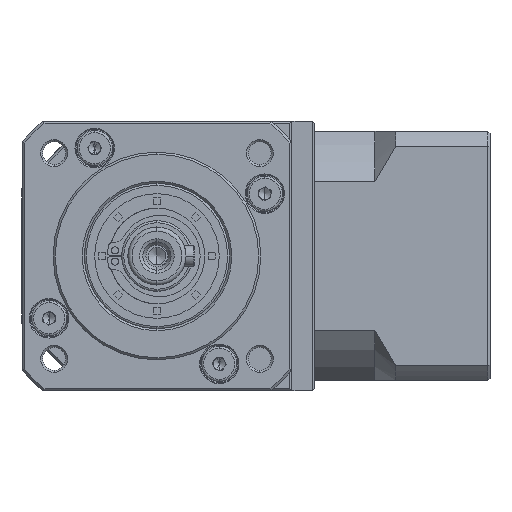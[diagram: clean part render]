
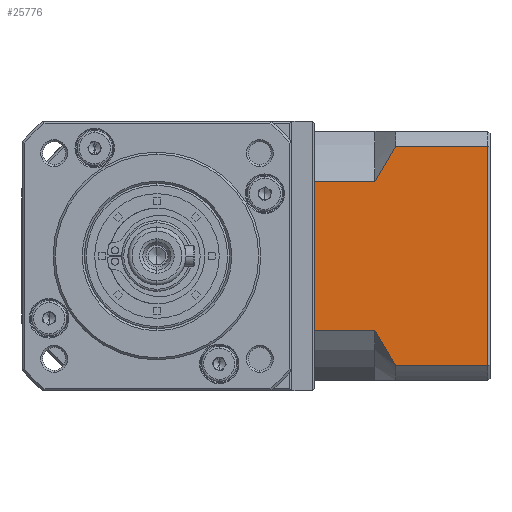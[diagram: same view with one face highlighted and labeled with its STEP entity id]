
A CAD part, left-side view. The second image highlights one B-rep face of the part: STEP entity #25776.
In plain terms, the highlighted planar face has unit normal (-1, 0, 0).
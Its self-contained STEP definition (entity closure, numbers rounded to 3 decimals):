
#886 = VERTEX_POINT ( 'NONE', #100569 ) ;
#1489 = B_SPLINE_CURVE_WITH_KNOTS ( 'NONE', 3,
 ( #36244, #62282, #87854, #12005, #100720, #24716 ),
 .UNSPECIFIED., .F., .F.,
 ( 4, 2, 4 ),
 ( 0.052, 0.057, 0.062 ),
 .UNSPECIFIED. ) ;
#1565 = CARTESIAN_POINT ( 'NONE',  ( 16.666, -16.042, 86.242 ) ) ;
#2816 = CARTESIAN_POINT ( 'NONE',  ( 16.666, -11.793, 93.216 ) ) ;
#5356 = LINE ( 'NONE', #144395, #136288 ) ;
#6912 = ORIENTED_EDGE ( 'NONE', *, *, #144850, .F. ) ;
#10768 = VECTOR ( 'NONE', #93828, 1000. ) ;
#12005 = CARTESIAN_POINT ( 'NONE',  ( 16.666, -12.594, 133.611 ) ) ;
#12639 = B_SPLINE_CURVE_WITH_KNOTS ( 'NONE', 3,
 ( #154746, #2816, #117055, #40947, #129784, #53651 ),
 .UNSPECIFIED., .F., .F.,
 ( 4, 2, 4 ),
 ( 0.1, 0.104, 0.109 ),
 .UNSPECIFIED. ) ;
#13558 = EDGE_LOOP ( 'NONE', ( #136567, #71172, #34356, #155069, #81053, #145869, #6912, #121154 ) ) ;
#14433 = VECTOR ( 'NONE', #129024, 1000. ) ;
#15318 = CARTESIAN_POINT ( 'NONE',  ( 16.666, -11.042, 94.672 ) ) ;
#16006 = EDGE_CURVE ( 'NONE', #55504, #27677, #107994, .T. ) ;
#16425 = CARTESIAN_POINT ( 'NONE',  ( 16.666, 3.458, 82.7 ) ) ;
#21311 = CARTESIAN_POINT ( 'NONE',  ( 16.666, -38.742, 82.7 ) ) ;
#24716 = CARTESIAN_POINT ( 'NONE',  ( 16.666, -11.042, 130.728 ) ) ;
#25776 = ADVANCED_FACE ( 'NONE', ( #107659 ), #135014, .F. ) ;
#26331 = EDGE_CURVE ( 'NONE', #55504, #97976, #93411, .T. ) ;
#27677 = VERTEX_POINT ( 'NONE', #149766 ) ;
#29266 = VERTEX_POINT ( 'NONE', #99590 ) ;
#33942 = DIRECTION ( 'NONE',  ( 0., 1., 0. ) ) ;
#34356 = ORIENTED_EDGE ( 'NONE', *, *, #37686, .F. ) ;
#36244 = CARTESIAN_POINT ( 'NONE',  ( 16.666, -16.042, 139.158 ) ) ;
#37686 = EDGE_CURVE ( 'NONE', #886, #27677, #149858, .T. ) ;
#40947 = CARTESIAN_POINT ( 'NONE',  ( 16.666, -14.267, 88.985 ) ) ;
#41807 = DIRECTION ( 'NONE',  ( 0., 0., -1. ) ) ;
#43795 = DIRECTION ( 'NONE',  ( 0., 1., 0. ) ) ;
#52453 = VECTOR ( 'NONE', #134698, 1000. ) ;
#53195 = EDGE_CURVE ( 'NONE', #886, #29266, #1489, .T. ) ;
#53651 = CARTESIAN_POINT ( 'NONE',  ( 16.666, -16.042, 86.242 ) ) ;
#55484 = DIRECTION ( 'NONE',  ( 0., -1., 0. ) ) ;
#55504 = VERTEX_POINT ( 'NONE', #101348 ) ;
#55624 = VECTOR ( 'NONE', #43795, 1000. ) ;
#57823 = VERTEX_POINT ( 'NONE', #142489 ) ;
#60379 = VECTOR ( 'NONE', #41807, 1000. ) ;
#62282 = CARTESIAN_POINT ( 'NONE',  ( 16.666, -15.143, 137.798 ) ) ;
#71172 = ORIENTED_EDGE ( 'NONE', *, *, #16006, .T. ) ;
#71846 = CARTESIAN_POINT ( 'NONE',  ( 16.666, -11.042, 139.158 ) ) ;
#77326 = EDGE_CURVE ( 'NONE', #109980, #29266, #5356, .T. ) ;
#78974 = CARTESIAN_POINT ( 'NONE',  ( 16.666, 3.458, 130.728 ) ) ;
#81053 = ORIENTED_EDGE ( 'NONE', *, *, #77326, .F. ) ;
#86022 = EDGE_CURVE ( 'NONE', #57823, #97976, #12639, .T. ) ;
#87854 = CARTESIAN_POINT ( 'NONE',  ( 16.666, -14.27, 136.419 ) ) ;
#92968 = AXIS2_PLACEMENT_3D ( 'NONE', #21311, #110062, #33942 ) ;
#93411 = LINE ( 'NONE', #119901, #55624 ) ;
#93828 = DIRECTION ( 'NONE',  ( 0., 0., 1. ) ) ;
#97976 = VERTEX_POINT ( 'NONE', #1565 ) ;
#99590 = CARTESIAN_POINT ( 'NONE',  ( 16.666, -11.042, 130.728 ) ) ;
#100569 = CARTESIAN_POINT ( 'NONE',  ( 16.666, -16.042, 139.158 ) ) ;
#100720 = CARTESIAN_POINT ( 'NONE',  ( 16.666, -11.79, 132.18 ) ) ;
#101348 = CARTESIAN_POINT ( 'NONE',  ( 16.666, -38.242, 86.242 ) ) ;
#107659 = FACE_OUTER_BOUND ( 'NONE', #13558, .T. ) ;
#107710 = LINE ( 'NONE', #15318, #14433 ) ;
#107994 = LINE ( 'NONE', #132719, #10768 ) ;
#109980 = VERTEX_POINT ( 'NONE', #78974 ) ;
#110062 = DIRECTION ( 'NONE',  ( 1., 0., 0. ) ) ;
#113542 = VERTEX_POINT ( 'NONE', #117725 ) ;
#117055 = CARTESIAN_POINT ( 'NONE',  ( 16.666, -12.593, 91.79 ) ) ;
#117725 = CARTESIAN_POINT ( 'NONE',  ( 16.666, 3.458, 94.672 ) ) ;
#119901 = CARTESIAN_POINT ( 'NONE',  ( 16.666, -11.042, 86.242 ) ) ;
#121154 = ORIENTED_EDGE ( 'NONE', *, *, #86022, .T. ) ;
#129024 = DIRECTION ( 'NONE',  ( 0., 1., 0. ) ) ;
#129201 = EDGE_CURVE ( 'NONE', #109980, #113542, #161771, .T. ) ;
#129784 = CARTESIAN_POINT ( 'NONE',  ( 16.666, -15.141, 87.605 ) ) ;
#132719 = CARTESIAN_POINT ( 'NONE',  ( 16.666, -38.242, 82.7 ) ) ;
#134698 = DIRECTION ( 'NONE',  ( 0., -1., 0. ) ) ;
#135014 = PLANE ( 'NONE',  #92968 ) ;
#136288 = VECTOR ( 'NONE', #55484, 1000. ) ;
#136567 = ORIENTED_EDGE ( 'NONE', *, *, #26331, .F. ) ;
#142489 = CARTESIAN_POINT ( 'NONE',  ( 16.666, -11.042, 94.672 ) ) ;
#144395 = CARTESIAN_POINT ( 'NONE',  ( 16.666, -11.042, 130.728 ) ) ;
#144850 = EDGE_CURVE ( 'NONE', #57823, #113542, #107710, .T. ) ;
#145869 = ORIENTED_EDGE ( 'NONE', *, *, #129201, .T. ) ;
#149766 = CARTESIAN_POINT ( 'NONE',  ( 16.666, -38.242, 139.158 ) ) ;
#149858 = LINE ( 'NONE', #71846, #52453 ) ;
#154746 = CARTESIAN_POINT ( 'NONE',  ( 16.666, -11.042, 94.672 ) ) ;
#155069 = ORIENTED_EDGE ( 'NONE', *, *, #53195, .T. ) ;
#161771 = LINE ( 'NONE', #16425, #60379 ) ;
